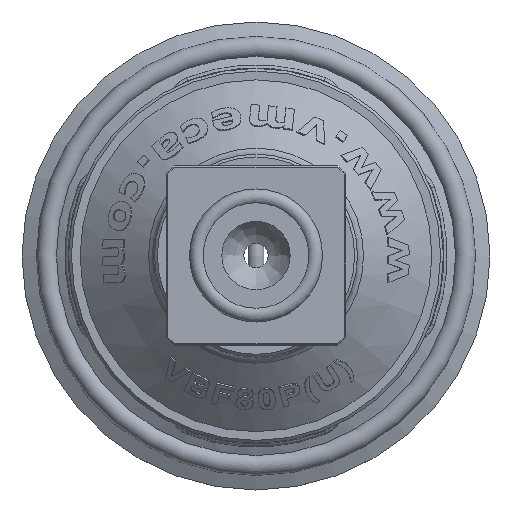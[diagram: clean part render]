
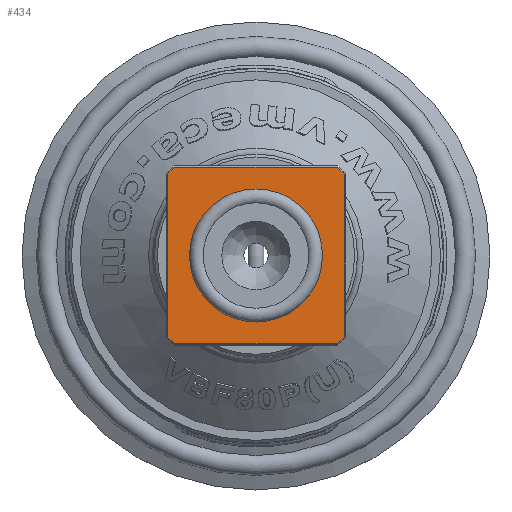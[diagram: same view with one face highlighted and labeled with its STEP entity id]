
A CAD part, top view. The second image highlights one B-rep face of the part: STEP entity #434.
In plain terms, the highlighted planar face has unit normal (0, 0, 1).
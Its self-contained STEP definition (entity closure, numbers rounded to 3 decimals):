
#434 = ADVANCED_FACE( '', ( #1090, #1091 ), #1092, .T. );
#1090 = FACE_OUTER_BOUND( '', #14965, .T. );
#1091 = FACE_BOUND( '', #14966, .T. );
#1092 = PLANE( '', #14967 );
#14965 = EDGE_LOOP( '', ( #16554, #16555, #16556, #16557, #16558, #16559, #16560, #16561 ) );
#14966 = EDGE_LOOP( '', ( #16562 ) );
#14967 = AXIS2_PLACEMENT_3D( '', #16563, #16564, #16565 );
#16554 = ORIENTED_EDGE( '', *, *, #18006, .T. );
#16555 = ORIENTED_EDGE( '', *, *, #18007, .T. );
#16556 = ORIENTED_EDGE( '', *, *, #18008, .T. );
#16557 = ORIENTED_EDGE( '', *, *, #18009, .T. );
#16558 = ORIENTED_EDGE( '', *, *, #18010, .T. );
#16559 = ORIENTED_EDGE( '', *, *, #18011, .T. );
#16560 = ORIENTED_EDGE( '', *, *, #18012, .T. );
#16561 = ORIENTED_EDGE( '', *, *, #18013, .T. );
#16562 = ORIENTED_EDGE( '', *, *, #18014, .T. );
#16563 = CARTESIAN_POINT( '', ( -15.875, 15.875, 6.767 ) );
#16564 = DIRECTION( '', ( 0., 0., 1. ) );
#16565 = DIRECTION( '', ( 1., 0., 0. ) );
#18006 = EDGE_CURVE( '', #20466, #20467, #20468, .T. );
#18007 = EDGE_CURVE( '', #20467, #20469, #20470, .T. );
#18008 = EDGE_CURVE( '', #20469, #20471, #20472, .T. );
#18009 = EDGE_CURVE( '', #20471, #20473, #20474, .T. );
#18010 = EDGE_CURVE( '', #20473, #20475, #20476, .T. );
#18011 = EDGE_CURVE( '', #20475, #20477, #20478, .T. );
#18012 = EDGE_CURVE( '', #20477, #20479, #20480, .T. );
#18013 = EDGE_CURVE( '', #20479, #20466, #20481, .T. );
#18014 = EDGE_CURVE( '', #20482, #20482, #20483, .T. );
#20466 = VERTEX_POINT( '', #34688 );
#20467 = VERTEX_POINT( '', #34689 );
#20468 = CIRCLE( '', #34690, 21.3 );
#20469 = VERTEX_POINT( '', #34691 );
#20470 = LINE( '', #34692, #34693 );
#20471 = VERTEX_POINT( '', #34694 );
#20472 = CIRCLE( '', #34695, 21.3 );
#20473 = VERTEX_POINT( '', #34696 );
#20474 = LINE( '', #34697, #34698 );
#20475 = VERTEX_POINT( '', #34699 );
#20476 = CIRCLE( '', #34700, 21.3 );
#20477 = VERTEX_POINT( '', #34701 );
#20478 = LINE( '', #34702, #34703 );
#20479 = VERTEX_POINT( '', #34704 );
#20480 = CIRCLE( '', #34705, 21.3 );
#20481 = LINE( '', #34706, #34707 );
#20482 = VERTEX_POINT( '', #34708 );
#20483 = CIRCLE( '', #34709, 11.8 );
#34688 = CARTESIAN_POINT( '', ( -14.422, 15.675, 6.767 ) );
#34689 = CARTESIAN_POINT( '', ( -15.675, 14.422, 6.767 ) );
#34690 = AXIS2_PLACEMENT_3D( '', #35622, #35623, #35624 );
#34691 = CARTESIAN_POINT( '', ( -15.675, -14.422, 6.767 ) );
#34692 = CARTESIAN_POINT( '', ( -15.675, 15.875, 6.767 ) );
#34693 = VECTOR( '', #35625, 1000. );
#34694 = CARTESIAN_POINT( '', ( -14.422, -15.675, 6.767 ) );
#34695 = AXIS2_PLACEMENT_3D( '', #35626, #35627, #35628 );
#34696 = CARTESIAN_POINT( '', ( 14.422, -15.675, 6.767 ) );
#34697 = CARTESIAN_POINT( '', ( -15.875, -15.675, 6.767 ) );
#34698 = VECTOR( '', #35629, 1000. );
#34699 = CARTESIAN_POINT( '', ( 15.675, -14.422, 6.767 ) );
#34700 = AXIS2_PLACEMENT_3D( '', #35630, #35631, #35632 );
#34701 = CARTESIAN_POINT( '', ( 15.675, 14.422, 6.767 ) );
#34702 = CARTESIAN_POINT( '', ( 15.675, 15.875, 6.767 ) );
#34703 = VECTOR( '', #35633, 1000. );
#34704 = CARTESIAN_POINT( '', ( 14.422, 15.675, 6.767 ) );
#34705 = AXIS2_PLACEMENT_3D( '', #35634, #35635, #35636 );
#34706 = CARTESIAN_POINT( '', ( -14.499, 15.675, 6.767 ) );
#34707 = VECTOR( '', #35637, 1000. );
#34708 = CARTESIAN_POINT( '', ( 11.8, 0., 6.767 ) );
#34709 = AXIS2_PLACEMENT_3D( '', #35638, #35639, #35640 );
#35622 = CARTESIAN_POINT( '', ( 0., 0., 6.767 ) );
#35623 = DIRECTION( '', ( 0., 0., 1. ) );
#35624 = DIRECTION( '', ( 1., 0., 0. ) );
#35625 = DIRECTION( '', ( 0., -1., 0. ) );
#35626 = CARTESIAN_POINT( '', ( 0., 0., 6.767 ) );
#35627 = DIRECTION( '', ( 0., 0., 1. ) );
#35628 = DIRECTION( '', ( 1., 0., 0. ) );
#35629 = DIRECTION( '', ( 1., 0., 0. ) );
#35630 = CARTESIAN_POINT( '', ( 0., 0., 6.767 ) );
#35631 = DIRECTION( '', ( 0., 0., 1. ) );
#35632 = DIRECTION( '', ( 1., 0., 0. ) );
#35633 = DIRECTION( '', ( 0., 1., 0. ) );
#35634 = CARTESIAN_POINT( '', ( 0., 0., 6.767 ) );
#35635 = DIRECTION( '', ( 0., 0., 1. ) );
#35636 = DIRECTION( '', ( 1., 0., 0. ) );
#35637 = DIRECTION( '', ( -1., 0., 0. ) );
#35638 = CARTESIAN_POINT( '', ( 0., 0., 6.767 ) );
#35639 = DIRECTION( '', ( 0., 0., -1. ) );
#35640 = DIRECTION( '', ( 1., 0., 0. ) );
